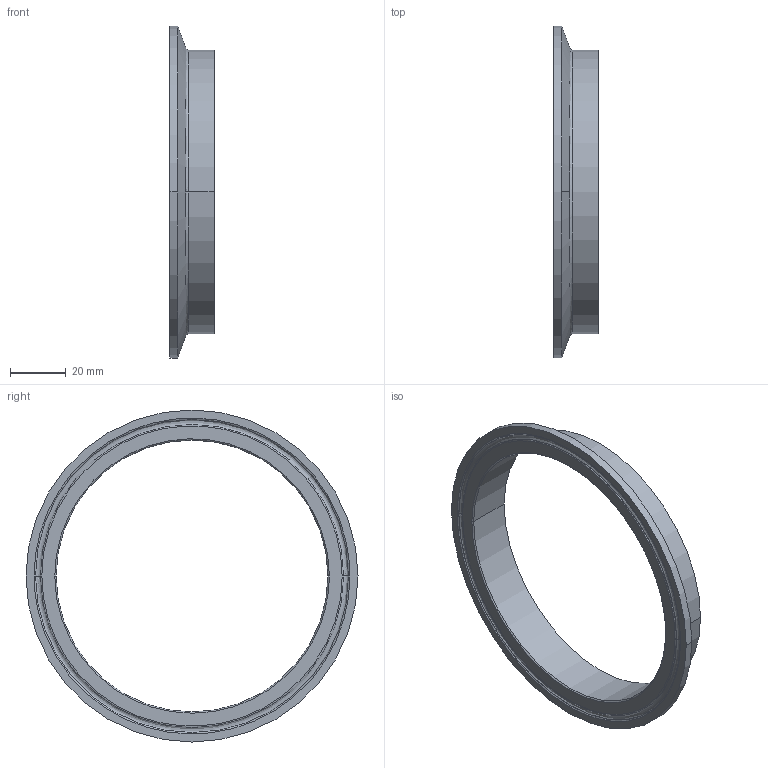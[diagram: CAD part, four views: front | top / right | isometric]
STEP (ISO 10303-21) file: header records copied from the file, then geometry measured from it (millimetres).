
FILE_DESCRIPTION (( 'STEP AP214' ), '1' );
FILE_NAME ('TEG2CS6L4.0.STEP', '2016-05-22T12:03:14', ( 'eran' ), ( '' ), 'SwSTEP 2.0', 'SolidWorks 2016', '' );
FILE_SCHEMA (( 'AUTOMOTIVE_DESIGN' ));
Length unit declared in the file: millimetre
Products named in the file (1): TEG2CS6L4.0
Bounding box: 15.9 x 118.92 x 118.92 mm (x, y, z)
Volume: 23180.9 mm3; surface area: 16689.1 mm2
Topology: 1 solids, 1 shells, 25 faces, 62 edges, 40 vertices
Faces by surface type: bspline 10, cylinder 6, cone 6, plane 3
Entity records: 1559 total; most frequent: CARTESIAN_POINT 934, DIRECTION 132, ORIENTED_EDGE 124, EDGE_CURVE 62, AXIS2_PLACEMENT_3D 60, CIRCLE 44, VERTEX_POINT 40, EDGE_LOOP 28
